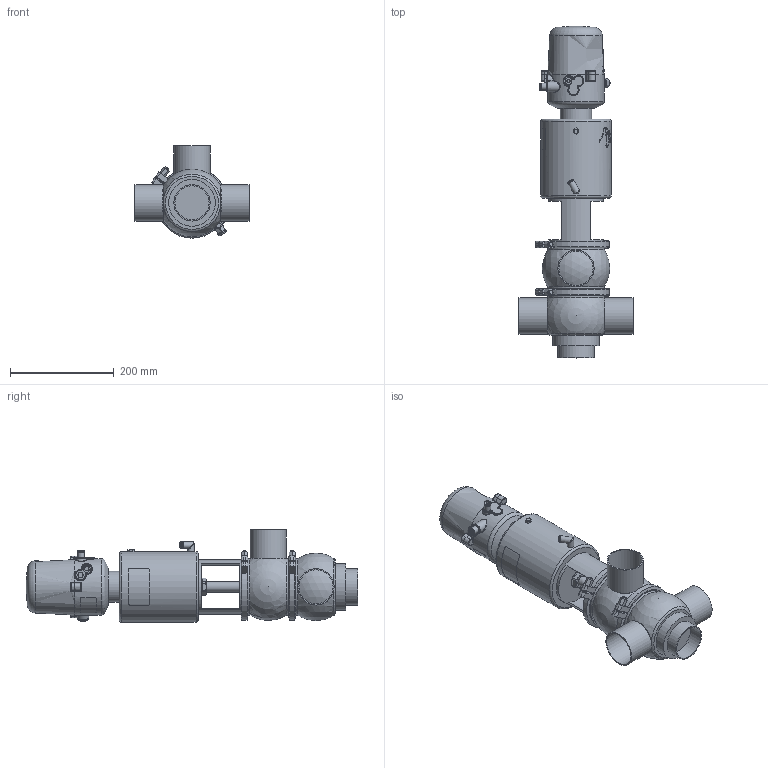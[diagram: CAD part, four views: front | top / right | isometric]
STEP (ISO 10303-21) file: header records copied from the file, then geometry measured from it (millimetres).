
FILE_DESCRIPTION (( 'STEP AP214' ), '1' );
FILE_NAME ('INNOVA K F W DIN 065 T3 AS NC & C-TOP S_10.240.16.0079.STEP', '2024-08-06T09:10:43', ( '' ), ( '' ), 'SwSTEP 2.0', 'SolidWorks 2023', '' );
FILE_SCHEMA (( 'AUTOMOTIVE_DESIGN' ));
Length unit declared in the file: millimetre
Products named in the file (8): 10.240.15.0014_T3 AS P0; 10.240.15.0017_Estàndard; 10.240.15.0006_DIN 065; 10.240.15.0001_DN 065; 10.240.15.0003_DIN 065; 10.240.15.0010_DN 065; 10.426.15.0001_C-TOP S - 1 EV; INNOVA K F W DIN 065 T3 AS NC & C-TOP S_10.240.16.0079
Assembly tree (8 placements, depth 2):
  INNOVA K F W DIN 065 T3 AS NC & C-TOP S_10.240.16.0079
    10.240.15.0006_DIN 065
    10.240.15.0003_DIN 065
    10.240.15.0010_DN 065
    10.240.15.0014_T3 AS P0
    10.240.15.0017_Estàndard
    10.426.15.0001_C-TOP S - 1 EV
    10.240.15.0001_DN 065  x2
Bounding box: 220 x 640.5 x 178 mm (x, y, z)
Volume: 6152962.4 mm3; surface area: 499081.4 mm2
Topology: 8 solids, 8 shells, 1179 faces, 2845 edges, 1895 vertices
Faces by surface type: plane 414, cylinder 358, cone 201, bspline 160, torus 37, sphere 9
Full cylindrical faces by diameter (mm): 0.371 x17, 0.512 x16, 0.658 x16, 0.795 x16, 0.94 x15, 1.098 x15, 1.241 x13, 1.382 x13, 1.523 x11, 1.669 x10, 2.201 x1, 4 x2, 5.5 x2, 6 x2, 6.15 x1, 8 x6, 8.5 x1, 10 x1, 10.5 x1, 11 x2, 12.5 x3, 13 x2, 13.5 x2, 16 x1, 17 x3, 20 x3, 20.5 x1, 22 x2, 31 x1, 34.5 x3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
Entity records: 58217 total; most frequent: CARTESIAN_POINT 27891, ORIENTED_EDGE 4528, DIRECTION 3677, EDGE_CURVE 2264, VERTEX_POINT 1613, EDGE_LOOP 1583, AXIS2_PLACEMENT_3D 1510, FACE_OUTER_BOUND 1340
